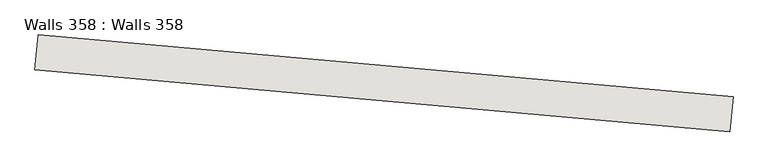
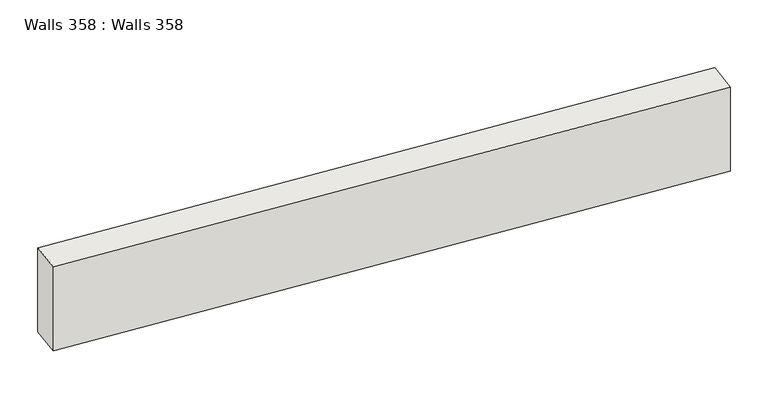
"""IFC4 building model written with IfcOpenShell, lengths in millimetres: wall geometry, Walls 358 : Walls 358."""

from ifc_helpers import new_model, si_unit, frame, origin, place, context, project, spatial, polyline, outline, extrude, source, transform, mapped, element, save


def walls_358_walls_358_e6177293(model_context):
    return source(origin(), model_context, "Body", "SweptSolid", [
        extrude(outline(polyline([(-722444.2776032, -414317.2443927), (-722479.7725332, -414715.6664176), (-730448.2130317, -414005.7678164), (-730412.7181016, -413607.3457914), (-722444.2776032, -414317.2443927)])), frame((0.0, 0.0, 635360.0), z_axis=(0.0, 0.0, 1.0), x_axis=(1.0, 0.0, 0.0)), (0.0, 0.0, 1.0), 1100.0),
    ])


if __name__ == "__main__":
    model = new_model("IFC4")
    model_context = context("Model", 3, world=origin())
    ifc_project = project(units=[si_unit("LENGTHUNIT", "METRE", prefix="MILLI")], contexts=[model_context])
    site = spatial("IfcSite", under=ifc_project)
    building = spatial("IfcBuilding", under=site)
    placement = place(None, origin())
    walls_358_walls_358_shape = walls_358_walls_358_e6177293(model_context)
    element("IfcWall", 1, ObjectType="Walls 358 : Walls 358", at=placement, inside=building, context=model_context, shape_type="MappedRepresentation", body=[
        mapped(walls_358_walls_358_shape, transform((0.0, 0.0, 0.0), x_axis=(1.0, 0.0, 0.0), y_axis=(0.0, 1.0, 0.0), z_axis=(0.0, 0.0, 1.0))),
    ])
    save(model, "model.ifc")
